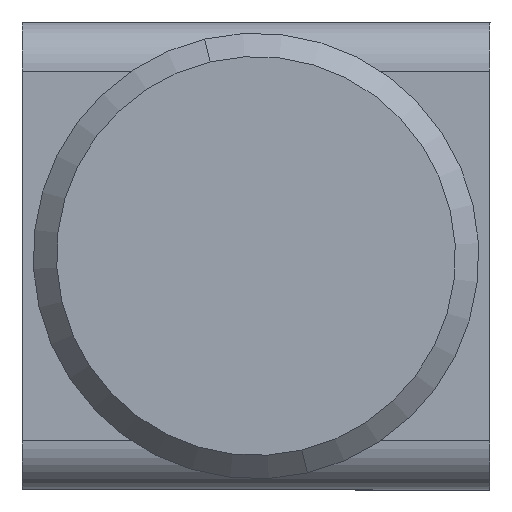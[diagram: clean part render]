
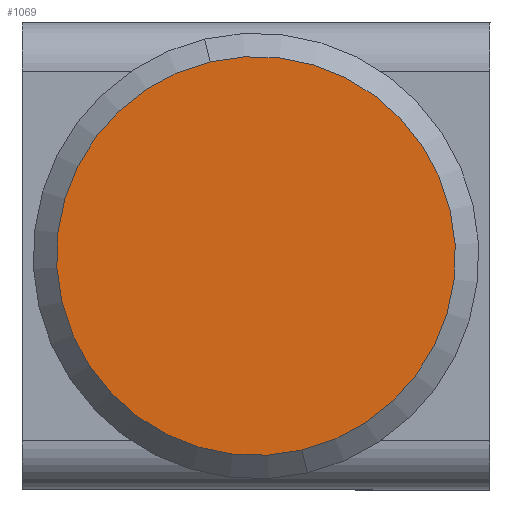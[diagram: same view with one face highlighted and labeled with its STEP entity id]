
A CAD part, front view. The second image highlights one B-rep face of the part: STEP entity #1069.
In plain terms, the highlighted planar face has unit normal (0, -1, 0).
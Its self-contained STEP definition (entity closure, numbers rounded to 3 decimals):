
#155 = CARTESIAN_POINT ( 'NONE',  ( -9.525, 0., 0. ) ) ;
#159 = FACE_OUTER_BOUND ( 'NONE', #2440, .T. ) ;
#163 = PLANE ( 'NONE',  #1431 ) ;
#164 = DIRECTION ( 'NONE',  ( 0., -1., 0. ) ) ;
#165 = DIRECTION ( 'NONE',  ( 0., 0., -1. ) ) ;
#558 = CIRCLE ( 'NONE', #560, 8.525 ) ;
#560 = AXIS2_PLACEMENT_3D ( 'NONE', #860, #861, #862 ) ;
#624 = CIRCLE ( 'NONE', #626, 8.525 ) ;
#626 = AXIS2_PLACEMENT_3D ( 'NONE', #2594, #2595, #2596 ) ;
#754 = ORIENTED_EDGE ( 'NONE', *, *, #1126, .T. ) ;
#769 = ORIENTED_EDGE ( 'NONE', *, *, #1177, .T. ) ;
#860 = CARTESIAN_POINT ( 'NONE',  ( 0., 0., 0. ) ) ;
#861 = DIRECTION ( 'NONE',  ( 0., -1., 0. ) ) ;
#862 = DIRECTION ( 'NONE',  ( 0., 0., -1. ) ) ;
#1069 = ADVANCED_FACE ( 'NONE', ( #159 ), #163, .T. ) ;
#1126 = EDGE_CURVE ( 'NONE', #2159, #2183, #558, .T. ) ;
#1177 = EDGE_CURVE ( 'NONE', #2183, #2159, #624, .T. ) ;
#1431 = AXIS2_PLACEMENT_3D ( 'NONE', #155, #164, #165 ) ;
#1812 = CARTESIAN_POINT ( 'NONE',  ( 0., 0., -8.525 ) ) ;
#1839 = CARTESIAN_POINT ( 'NONE',  ( 0., 0., 8.525 ) ) ;
#2159 = VERTEX_POINT ( 'NONE', #1812 ) ;
#2183 = VERTEX_POINT ( 'NONE', #1839 ) ;
#2440 = EDGE_LOOP ( 'NONE', ( #769, #754 ) ) ;
#2594 = CARTESIAN_POINT ( 'NONE',  ( 0., 0., 0. ) ) ;
#2595 = DIRECTION ( 'NONE',  ( 0., -1., 0. ) ) ;
#2596 = DIRECTION ( 'NONE',  ( 0., 0., -1. ) ) ;
